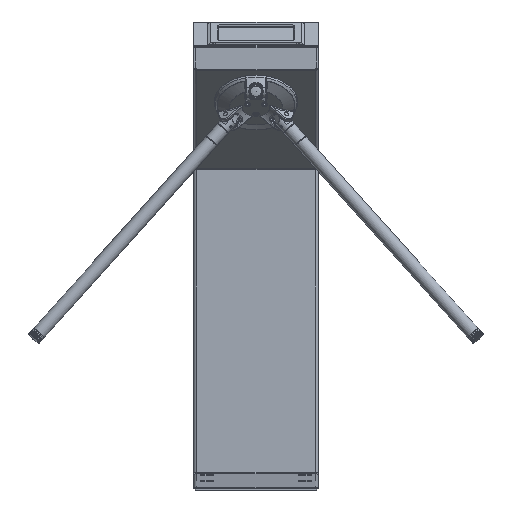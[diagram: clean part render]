
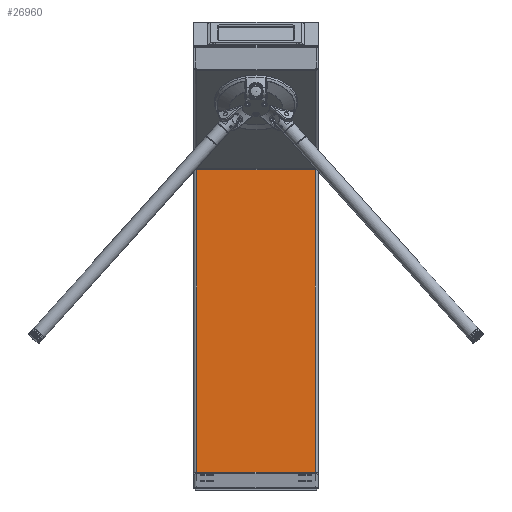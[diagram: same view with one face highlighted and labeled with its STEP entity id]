
A CAD part, front view. The second image highlights one B-rep face of the part: STEP entity #26960.
In plain terms, the highlighted planar face has unit normal (0, -1, 0).
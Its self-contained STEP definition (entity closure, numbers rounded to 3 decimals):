
#4860=ORIENTED_EDGE('',*,*,#12466,.F.);
#4861=ORIENTED_EDGE('',*,*,#12357,.T.);
#4862=ORIENTED_EDGE('',*,*,#12455,.T.);
#4863=ORIENTED_EDGE('',*,*,#12415,.F.);
#12357=EDGE_CURVE('',#16298,#16299,#18927,.T.);
#12415=EDGE_CURVE('',#16328,#16329,#18976,.T.);
#12455=EDGE_CURVE('',#16299,#16329,#19013,.T.);
#12466=EDGE_CURVE('',#16298,#16328,#19019,.T.);
#16298=VERTEX_POINT('',#49277);
#16299=VERTEX_POINT('',#49279);
#16328=VERTEX_POINT('',#49391);
#16329=VERTEX_POINT('',#49393);
#18927=LINE('',#49280,#20410);
#18976=LINE('',#49392,#20459);
#19013=LINE('',#49472,#20496);
#19019=LINE('',#49491,#20502);
#20410=VECTOR('',#41758,1000.);
#20459=VECTOR('',#41875,1000.);
#20496=VECTOR('',#41948,1000.);
#20502=VECTOR('',#41980,1000.);
#21959=EDGE_LOOP('',(#4860,#4861,#4862,#4863));
#24225=FACE_BOUND('',#21959,.T.);
#26290=PLANE('',#38221);
#26960=ADVANCED_FACE('',(#24225),#26290,.F.);
#38221=AXIS2_PLACEMENT_3D('',#49494,#41985,#41986);
#41758=DIRECTION('',(1.,0.,0.));
#41875=DIRECTION('',(1.,0.,0.));
#41948=DIRECTION('',(0.,0.,1.));
#41980=DIRECTION('',(0.,0.,1.));
#41985=DIRECTION('',(0.,1.,0.));
#41986=DIRECTION('',(1.,0.,0.));
#49277=CARTESIAN_POINT('',(-134.,-35.999,40.118));
#49279=CARTESIAN_POINT('',(134.,-35.999,40.118));
#49280=CARTESIAN_POINT('',(-140.,-35.999,40.118));
#49391=CARTESIAN_POINT('',(-134.,-35.999,721.355));
#49392=CARTESIAN_POINT('',(-140.,-35.999,721.355));
#49393=CARTESIAN_POINT('',(134.,-35.999,721.355));
#49472=CARTESIAN_POINT('',(134.,-35.999,746.355));
#49491=CARTESIAN_POINT('',(-134.,-35.999,746.355));
#49494=CARTESIAN_POINT('',(-140.,-35.999,34.903));
